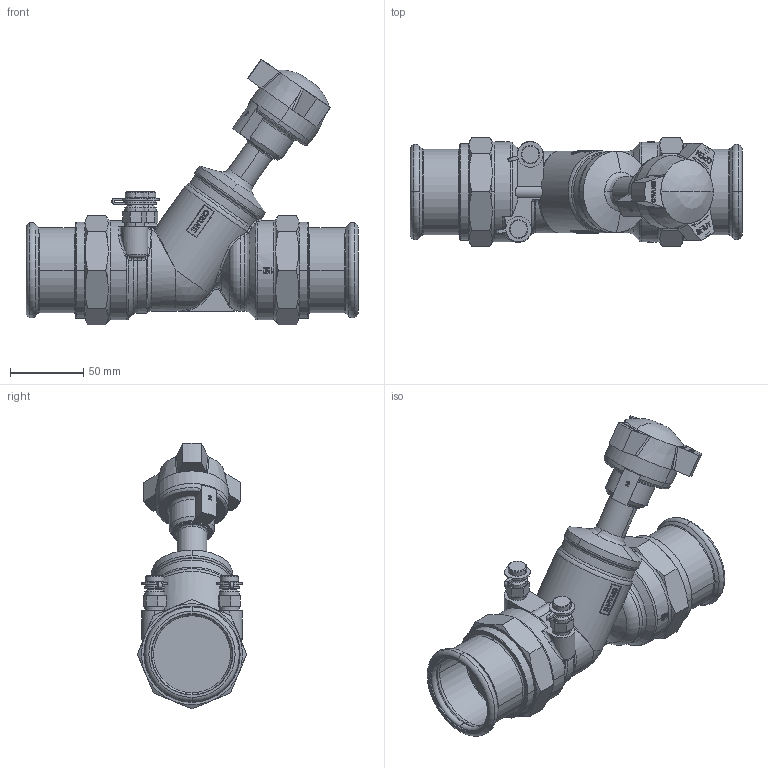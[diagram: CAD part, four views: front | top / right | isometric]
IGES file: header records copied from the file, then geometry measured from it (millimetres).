
Global section: file name: No Iges File Name specified; native system: AutoDesk Inventor R12.0; preprocessor: AutoDesk Inventor Iges Exporter R12.0; date: 20110824.114650; units: millimetre
Bounding box: 227 x 74.69 x 181.67 mm (x, y, z)
Volume: 640293.5 mm3; surface area: 107970.6 mm2
Topology: 1 solids, 3 shells, 1391 faces, 3853 edges, 2527 vertices
Faces by surface type: bspline 810, plane 362, cylinder 87, cone 70, revolution 34, torus 26, sphere 2
